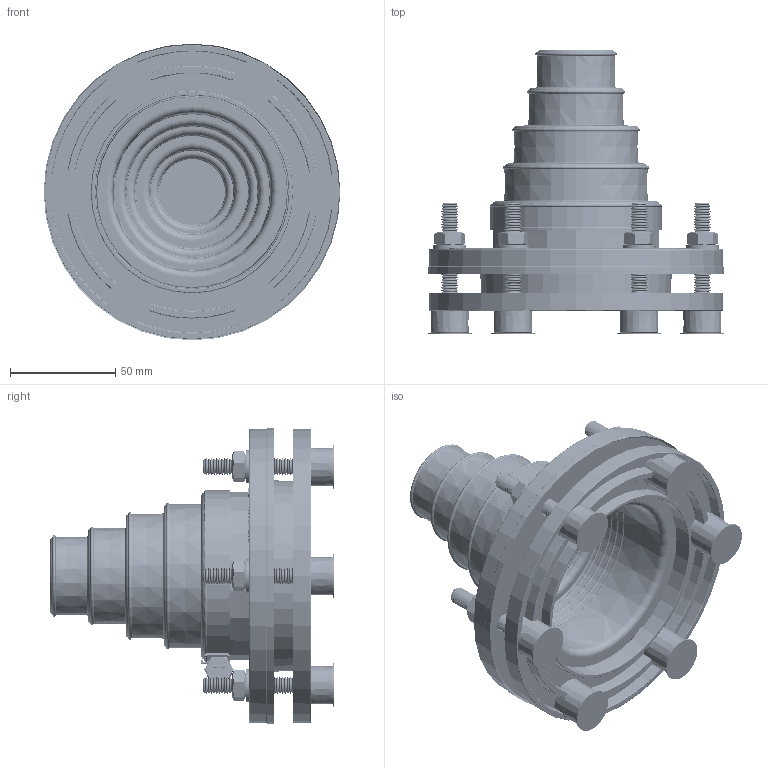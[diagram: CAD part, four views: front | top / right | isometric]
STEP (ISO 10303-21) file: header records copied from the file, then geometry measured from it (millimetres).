
FILE_DESCRIPTION (( 'STEP AP214' ), '1' );
FILE_NAME ('KP_M75-32.STEP', '2023-12-01T08:41:21', ( '' ), ( '' ), 'SwSTEP 2.0', 'SolidWorks 2023', '' );
FILE_SCHEMA (( 'AUTOMOTIVE_DESIGN' ));
Length unit declared in the file: millimetre
Products named in the file (1): KP_M75-32
Bounding box: 141.04 x 135.08 x 141.04 mm (x, y, z)
Volume: 217451.7 mm3; surface area: 170330.9 mm2
Topology: 2 solids, 44 shells, 5041 faces, 11177 edges, 6453 vertices
Faces by surface type: torus 1350, plane 1236, cone 1206, cylinder 621, bspline 534, sphere 94
Entity records: 159204 total; most frequent: CARTESIAN_POINT 48854, DIRECTION 24158, ORIENTED_EDGE 22354, EDGE_CURVE 11177, AXIS2_PLACEMENT_3D 9805, VERTEX_POINT 6453, EDGE_LOOP 5344, CIRCLE 5297
